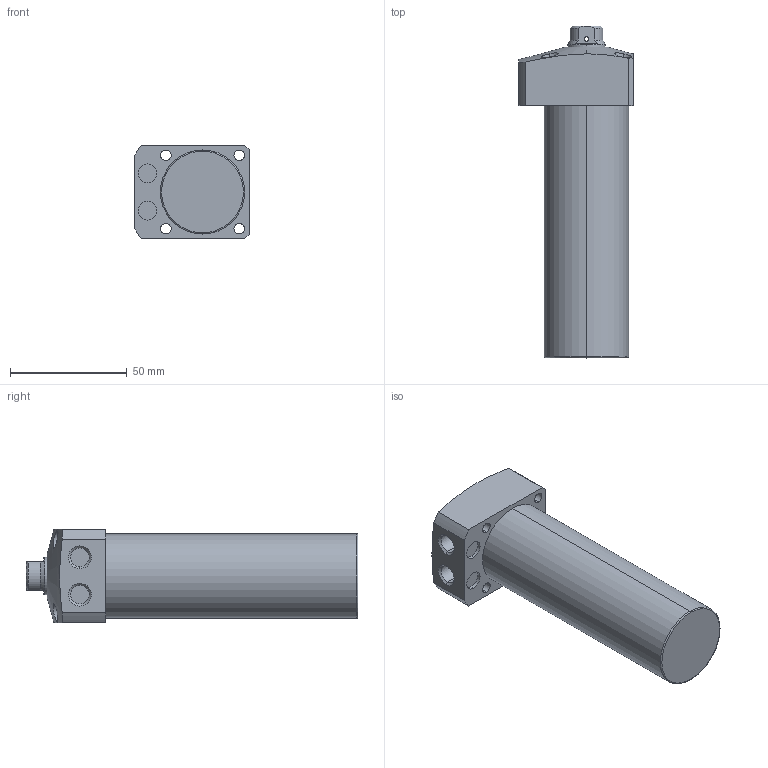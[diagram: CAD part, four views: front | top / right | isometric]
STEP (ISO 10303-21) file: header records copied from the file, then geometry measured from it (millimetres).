
FILE_DESCRIPTION (( 'STEP AP203' ), '1' );
FILE_NAME ('CLL-036CB-085.STEP', '2019-12-21T02:31:23', ( '' ), ( '' ), 'SwSTEP 2.0', 'SolidWorks 2015', '' );
FILE_SCHEMA (( 'CONFIG_CONTROL_DESIGN' ));
Length unit declared in the file: millimetre
Products named in the file (1): CLL-036CB-085
Bounding box: 49 x 142 x 40 mm (x, y, z)
Volume: 151350.8 mm3; surface area: 22422.6 mm2
Topology: 1 solids, 1 shells, 76 faces, 184 edges, 117 vertices
Faces by surface type: cylinder 38, plane 22, cone 14, torus 2
Entity records: 2699 total; most frequent: CARTESIAN_POINT 814, DIRECTION 386, ORIENTED_EDGE 364, EDGE_CURVE 182, AXIS2_PLACEMENT_3D 159, VERTEX_POINT 117, EDGE_LOOP 97, CIRCLE 82
